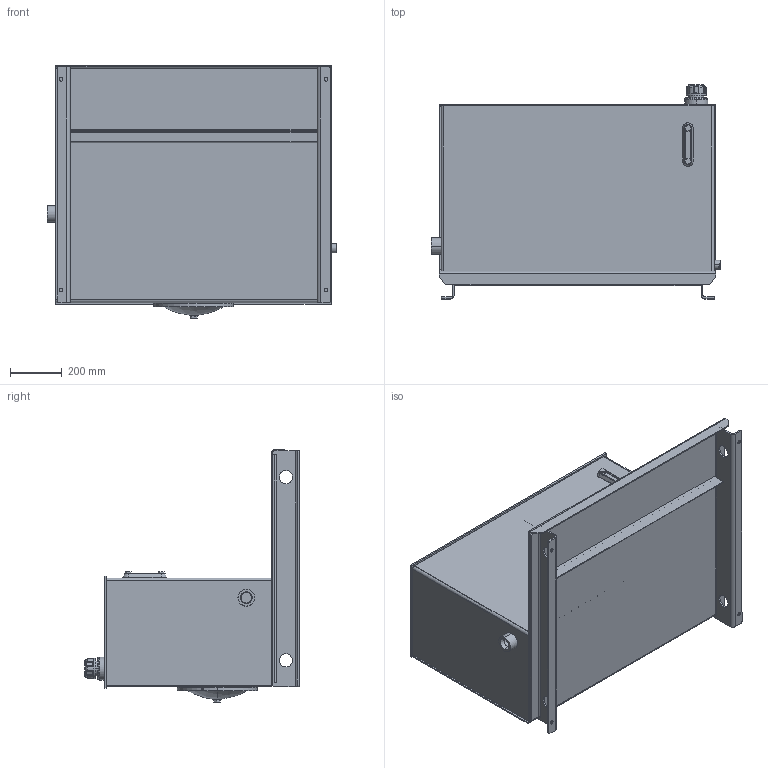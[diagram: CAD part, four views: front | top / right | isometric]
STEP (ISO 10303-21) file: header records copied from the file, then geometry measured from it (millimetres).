
FILE_DESCRIPTION (( 'STEP AP203' ), '1' );
FILE_NAME ('RLC060-FT.STEP', '2015-01-07T16:53:45', ( '' ), ( '' ), 'SwSTEP 2.0', 'SolidWorks 2014', '' );
FILE_SCHEMA (( 'CONFIG_CONTROL_DESIGN' ));
Length unit declared in the file: inch
Products named in the file (1): RLC060-FT
Bounding box: 1117.6 x 825.82 x 974.99 mm (x, y, z)
Volume: 19883982.8 mm3; surface area: 8357488.6 mm2
Topology: 20 solids, 20 shells, 703 faces, 1655 edges, 991 vertices
Faces by surface type: cylinder 258, plane 236, cone 86, torus 49, bspline 46, sphere 28
Entity records: 22418 total; most frequent: CARTESIAN_POINT 6012, DIRECTION 3589, ORIENTED_EDGE 3286, EDGE_CURVE 1643, AXIS2_PLACEMENT_3D 1420, VERTEX_POINT 991, EDGE_LOOP 806, CIRCLE 762
